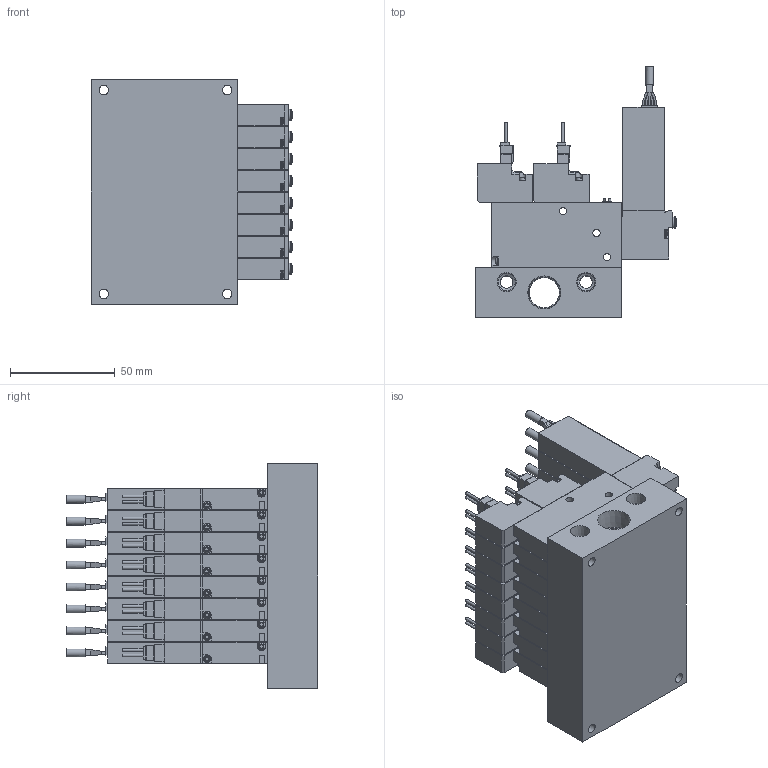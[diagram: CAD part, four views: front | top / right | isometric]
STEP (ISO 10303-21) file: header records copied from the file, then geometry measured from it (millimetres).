
FILE_DESCRIPTION(('STEP AP203'),'1');
FILE_NAME('BMPV42MV9.V9P5A(B)808.stp','2025-04-30T07:15:29',(' '),(' '),'Spatial InterOp 3D',' ',' ');
FILE_SCHEMA(('CONFIG_CONTROL_DESIGN'));
Length unit declared in the file: millimetre
Products named in the file (17): BMPV42MV9.V9P5A(B)808; UNIT-MPV42; VACUUM VALVE FUNCTION MPV42-A; VACUUM SENSOR MPV42-V9; MC4-M8
Assembly tree (33 placements, depth 2):
  BMPV42MV9.V9P5A(B)808
    UNIT-MPV42  x5
    VACUUM VALVE FUNCTION MPV42-A  x10
    VACUUM SENSOR MPV42-V9  x5
    VACUUM VALVE FUNCTION MPV42-A
    VACUUM VALVE FUNCTION MPV42-A
    UNIT-MPV42
    VACUUM SENSOR MPV42-V9
    VACUUM VALVE FUNCTION MPV42-A
    VACUUM VALVE FUNCTION MPV42-A
    UNIT-MPV42
    VACUUM SENSOR MPV42-V9
    MC4-M8
    VACUUM VALVE FUNCTION MPV42-A
    VACUUM VALVE FUNCTION MPV42-A
    UNIT-MPV42
    VACUUM SENSOR MPV42-V9
Bounding box: 96.34 x 120.3 x 107.5 mm (x, y, z)
Volume: 499762.9 mm3; surface area: 163346.4 mm2
Topology: 33 solids, 33 shells, 3073 faces, 8322 edges, 5507 vertices
Faces by surface type: plane 2406, cylinder 539, cone 48, sphere 40, torus 40
Full cylindrical faces by diameter (mm): 1.4 x32, 1.8 x8, 2.2 x16, 3 x32, 3.5 x88, 3.8 x8, 4.134 x16, 4.5 x4, 5 x8, 5.5 x8, 6 x2, 8.2 x4, 14.5 x1
Entity records: 45792 total; most frequent: CARTESIAN_POINT 8858, ORIENTED_EDGE 7328, DIRECTION 7258, EDGE_CURVE 3664, LINE 2870, VECTOR 2870, VERTEX_POINT 2522, AXIS2_PLACEMENT_3D 2194
